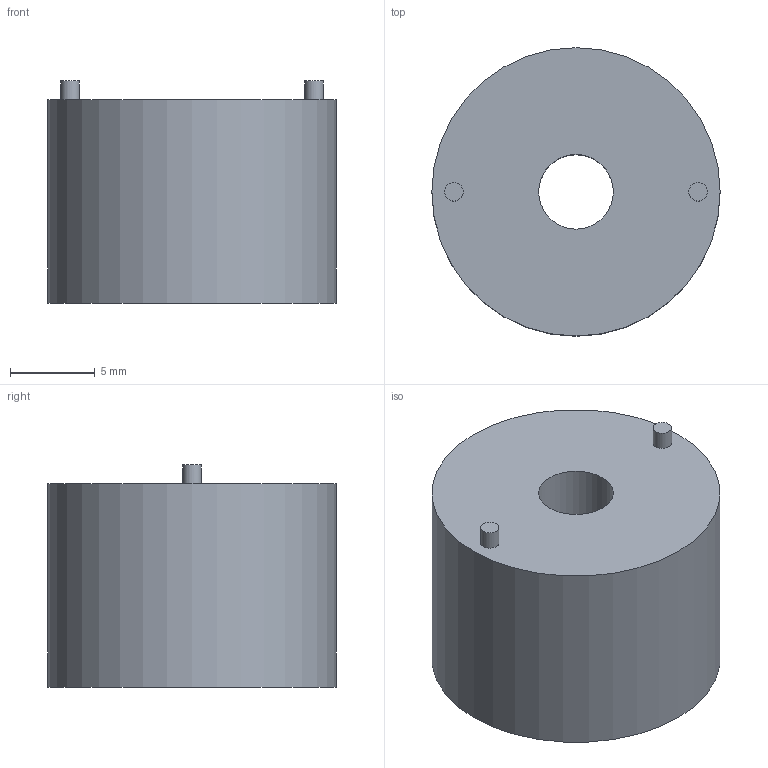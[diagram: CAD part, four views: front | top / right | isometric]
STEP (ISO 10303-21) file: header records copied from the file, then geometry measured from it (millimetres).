
FILE_DESCRIPTION(('Open CASCADE Model'),'2;1');
FILE_NAME('Open CASCADE Shape Model','2026-09-24T18:10:38',('Author'),( 'Open CASCADE'),'Open CASCADE STEP processor 7.8','Open CASCADE 7.8' ,'Unknown');
FILE_SCHEMA(('AUTOMOTIVE_DESIGN { 1 0 10303 214 1 1 1 1 }'));
Length unit declared in the file: millimetre
Products named in the file (1): Open CASCADE STEP translator 7.8 2
Bounding box: 17 x 17 x 13.1 mm (x, y, z)
Volume: 2543.4 mm3; surface area: 1237.9 mm2
Topology: 1 solids, 1 shells, 8 faces, 12 edges, 8 vertices
Faces by surface type: cylinder 4, plane 4
Full cylindrical faces by diameter (mm): 1.1 x2, 4.4 x1, 17 x1
Entity records: 354 total; most frequent: DIRECTION 62, CARTESIAN_POINT 53, ORIENTED_EDGE 24, PCURVE 24, DEFINITIONAL_REPRESENTATION 24, LINE 20, VECTOR 20, AXIS2_PLACEMENT_3D 17
